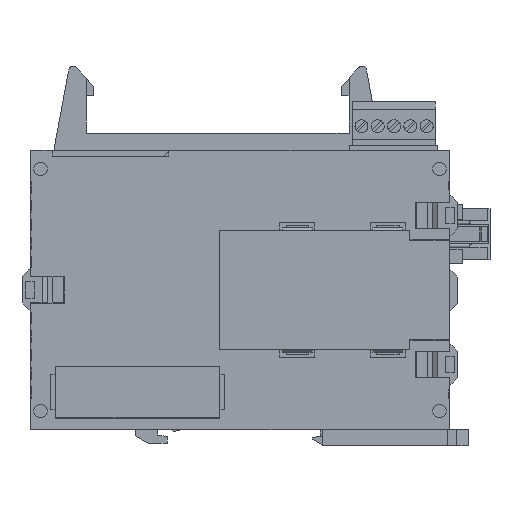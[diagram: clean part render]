
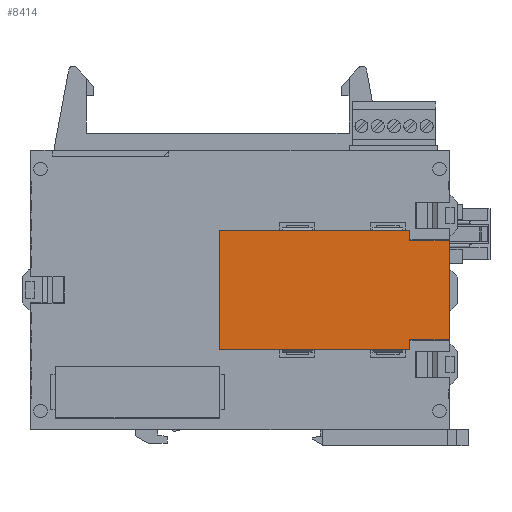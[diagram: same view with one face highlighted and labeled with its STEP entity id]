
A CAD part, left-side view. The second image highlights one B-rep face of the part: STEP entity #8414.
In plain terms, the highlighted planar face has unit normal (-1, 0, 0) as drawn and (0, 0, -1) by its records, which use the part's own axes.
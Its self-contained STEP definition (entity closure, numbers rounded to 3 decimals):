
#248 = CARTESIAN_POINT ( 'NONE',  ( -8.55, 10.7, 0. ) ) ;
#409 = VECTOR ( 'NONE', #23549, 1000. ) ;
#460 = CARTESIAN_POINT ( 'NONE',  ( 0., -10.7, 0. ) ) ;
#691 = VECTOR ( 'NONE', #4583, 1000. ) ;
#810 = VERTEX_POINT ( 'NONE', #29096 ) ;
#2568 = LINE ( 'NONE', #43831, #9234 ) ;
#2967 = CARTESIAN_POINT ( 'NONE',  ( 0., 0., 0. ) ) ;
#3675 = VERTEX_POINT ( 'NONE', #17879 ) ;
#3709 = CARTESIAN_POINT ( 'NONE',  ( 0., 10.7, 0. ) ) ;
#4583 = DIRECTION ( 'NONE',  ( 0., -1., 0. ) ) ;
#4728 = ORIENTED_EDGE ( 'NONE', *, *, #5878, .T. ) ;
#4960 = LINE ( 'NONE', #248, #12135 ) ;
#5878 = EDGE_CURVE ( 'NONE', #810, #3675, #29839, .T. ) ;
#6440 = VERTEX_POINT ( 'NONE', #24546 ) ;
#6847 = VECTOR ( 'NONE', #44969, 1000. ) ;
#7636 = PLANE ( 'NONE',  #41871 ) ;
#8404 = LINE ( 'NONE', #3709, #6847 ) ;
#8414 = ADVANCED_FACE ( 'NONE', ( #40645 ), #7636, .T. ) ;
#9234 = VECTOR ( 'NONE', #39115, 1000. ) ;
#9303 = CARTESIAN_POINT ( 'NONE',  ( -49.3, 12.75, 0. ) ) ;
#9414 = ORIENTED_EDGE ( 'NONE', *, *, #33210, .F. ) ;
#9469 = VECTOR ( 'NONE', #25106, 1000. ) ;
#11199 = ORIENTED_EDGE ( 'NONE', *, *, #11588, .T. ) ;
#11584 = CARTESIAN_POINT ( 'NONE',  ( -49.3, 12.75, 0. ) ) ;
#11588 = EDGE_CURVE ( 'NONE', #14360, #32204, #32935, .T. ) ;
#11928 = VERTEX_POINT ( 'NONE', #11584 ) ;
#12135 = VECTOR ( 'NONE', #41545, 1000. ) ;
#13812 = CARTESIAN_POINT ( 'NONE',  ( -8.55, -10.7, 0. ) ) ;
#14026 = LINE ( 'NONE', #9303, #691 ) ;
#14156 = VECTOR ( 'NONE', #26127, 1000. ) ;
#14360 = VERTEX_POINT ( 'NONE', #460 ) ;
#15430 = ORIENTED_EDGE ( 'NONE', *, *, #43613, .F. ) ;
#16210 = EDGE_CURVE ( 'NONE', #45390, #6440, #4960, .T. ) ;
#17517 = EDGE_LOOP ( 'NONE', ( #11199, #37910, #4728, #15430, #38711, #20956, #30303, #9414 ) ) ;
#17879 = CARTESIAN_POINT ( 'NONE',  ( -49.3, -12.75, 0. ) ) ;
#20424 = DIRECTION ( 'NONE',  ( -1., 0., 0. ) ) ;
#20956 = ORIENTED_EDGE ( 'NONE', *, *, #37956, .F. ) ;
#22320 = EDGE_CURVE ( 'NONE', #34839, #11928, #2568, .T. ) ;
#23549 = DIRECTION ( 'NONE',  ( -1., 0., 0. ) ) ;
#23887 = CARTESIAN_POINT ( 'NONE',  ( -8.55, 12.75, 0. ) ) ;
#24546 = CARTESIAN_POINT ( 'NONE',  ( -8.55, 10.7, 0. ) ) ;
#25106 = DIRECTION ( 'NONE',  ( 0., -1., 0. ) ) ;
#25147 = CARTESIAN_POINT ( 'NONE',  ( -47.3, -12.75, 0. ) ) ;
#26127 = DIRECTION ( 'NONE',  ( 0., 1., 0. ) ) ;
#28265 = CARTESIAN_POINT ( 'NONE',  ( -8.55, -10.7, 0. ) ) ;
#29096 = CARTESIAN_POINT ( 'NONE',  ( -8.55, -12.75, 0. ) ) ;
#29452 = EDGE_CURVE ( 'NONE', #32204, #810, #34533, .T. ) ;
#29796 = CARTESIAN_POINT ( 'NONE',  ( -8.55, -12.75, 0. ) ) ;
#29839 = LINE ( 'NONE', #25147, #37528 ) ;
#30303 = ORIENTED_EDGE ( 'NONE', *, *, #16210, .F. ) ;
#30841 = CARTESIAN_POINT ( 'NONE',  ( -8.55, 12.75, 0. ) ) ;
#32204 = VERTEX_POINT ( 'NONE', #13812 ) ;
#32340 = CARTESIAN_POINT ( 'NONE',  ( 0., 10.7, 0. ) ) ;
#32935 = LINE ( 'NONE', #28265, #409 ) ;
#33210 = EDGE_CURVE ( 'NONE', #14360, #45390, #8404, .T. ) ;
#34533 = LINE ( 'NONE', #29796, #9469 ) ;
#34839 = VERTEX_POINT ( 'NONE', #23887 ) ;
#35552 = LINE ( 'NONE', #30841, #14156 ) ;
#37528 = VECTOR ( 'NONE', #20424, 1000. ) ;
#37910 = ORIENTED_EDGE ( 'NONE', *, *, #29452, .T. ) ;
#37956 = EDGE_CURVE ( 'NONE', #6440, #34839, #35552, .T. ) ;
#38711 = ORIENTED_EDGE ( 'NONE', *, *, #22320, .F. ) ;
#39115 = DIRECTION ( 'NONE',  ( -1., 0., 0. ) ) ;
#39495 = DIRECTION ( 'NONE',  ( -1., 0., 0. ) ) ;
#40645 = FACE_OUTER_BOUND ( 'NONE', #17517, .T. ) ;
#41545 = DIRECTION ( 'NONE',  ( -1., 0., 0. ) ) ;
#41871 = AXIS2_PLACEMENT_3D ( 'NONE', #2967, #44223, #39495 ) ;
#43613 = EDGE_CURVE ( 'NONE', #11928, #3675, #14026, .T. ) ;
#43831 = CARTESIAN_POINT ( 'NONE',  ( -47.3, 12.75, 0. ) ) ;
#44223 = DIRECTION ( 'NONE',  ( 0., 0., -1. ) ) ;
#44969 = DIRECTION ( 'NONE',  ( 0., 1., 0. ) ) ;
#45390 = VERTEX_POINT ( 'NONE', #32340 ) ;
